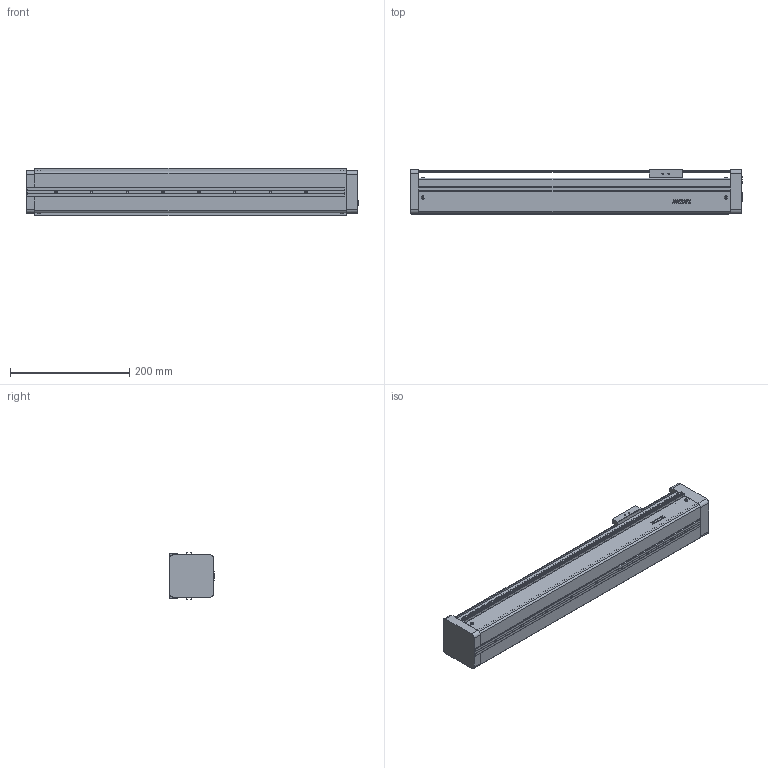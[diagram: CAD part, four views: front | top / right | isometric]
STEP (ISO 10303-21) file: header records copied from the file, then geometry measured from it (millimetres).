
FILE_DESCRIPTION(/* description */ (''),/* implementation_level */ '2;1');
FILE_NAME(/* name */ 'D:\混合母檔20191031\混和母檔\混和母檔\bin\Debug\Download\3D\KE705C-350AF0\KE705C-350AF0.stp',/* time_stamp */ '2019-11-04T14:02:45+08:00',/* author */ ('user'),/* organization */ (''),/* preprocessor_version */ 'ST-DEVELOPER v16.13',/* originating_system */ 'Autodesk Inventor 2018',/* authorisation */ '');
FILE_SCHEMA (('AUTOMOTIVE_DESIGN { 1 0 10303 214 3 1 1 }'));
Length unit declared in the file: millimetre
Products named in the file (3): KE705C-350AF0; KE70-F0-BP; KE70-SL
Assembly tree (2 placements, depth 2):
  KE705C-350AF0
    KE70-F0-BP
    KE70-SL
Bounding box: 557 x 75 x 79.4 mm (x, y, z)
Volume: 2299515.9 mm3; surface area: 341147 mm2
Topology: 2 solids, 29 shells, 827 faces, 2198 edges, 1439 vertices
Faces by surface type: plane 499, bspline 148, cylinder 106, cone 62, torus 12
Full cylindrical faces by diameter (mm): 2.459 x20, 3 x12, 3.242 x6, 3.5 x16, 4.134 x12, 5.7 x12, 6 x5, 30 x1
Entity records: 27574 total; most frequent: CARTESIAN_POINT 8747, ORIENTED_EDGE 3874, DIRECTION 3296, EDGE_CURVE 1937, VERTEX_POINT 1336, LINE 1268, VECTOR 1268, EDGE_LOOP 1035
